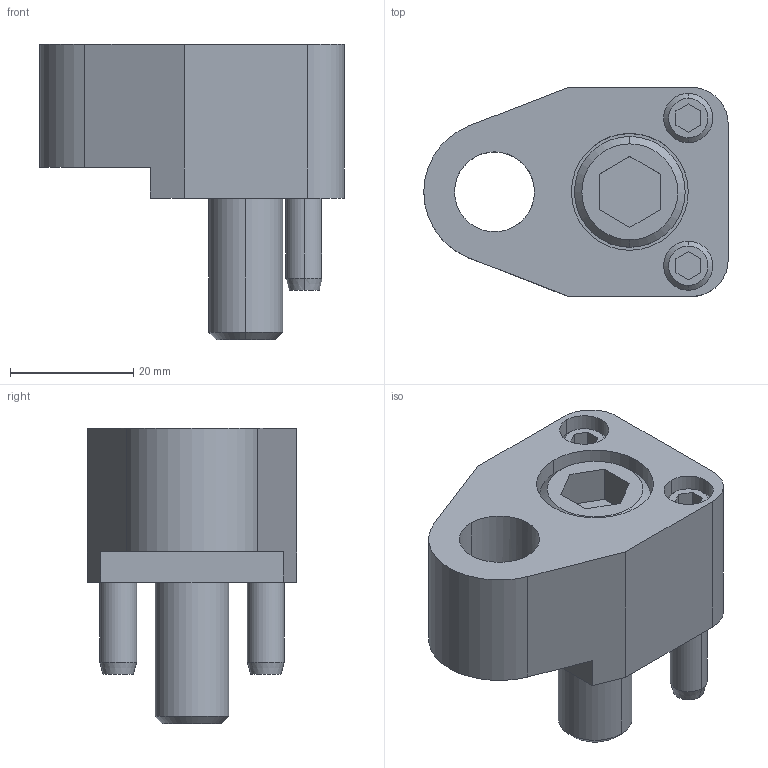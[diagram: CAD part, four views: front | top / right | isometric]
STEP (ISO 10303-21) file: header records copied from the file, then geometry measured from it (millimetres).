
FILE_DESCRIPTION(/* description */ (''),/* implementation_level */ '2;1');
FILE_NAME(/* name */ '3d_tpfrs13_03051_r00.stp',/* time_stamp */ '2011-01-10T14:08:57+09:00',/* author */ ('MISUMI'),/* organization */ (''),/* preprocessor_version */ 'ST-DEVELOPER v11',/* originating_system */ 'UGS - NX 5.0',/* authorisation */ '');
FILE_SCHEMA (('CONFIG_CONTROL_DESIGN'));
Length unit declared in the file: millimetre
Products named in the file (1): 3d_tpfrs13_03051_r00
Bounding box: 49.5 x 34 x 48 mm (x, y, z)
Volume: 32421.5 mm3; surface area: 13628.7 mm2
Topology: 6 solids, 6 shells, 111 faces, 246 edges, 157 vertices
Faces by surface type: plane 50, cylinder 39, cone 22
Entity records: 3208 total; most frequent: CARTESIAN_POINT 568, DIRECTION 566, ORIENTED_EDGE 492, EDGE_CURVE 246, AXIS2_PLACEMENT_3D 213, VERTEX_POINT 157, LINE 140, VECTOR 140
